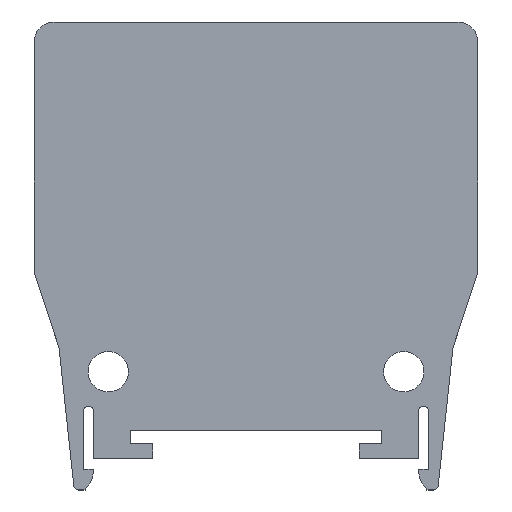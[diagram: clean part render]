
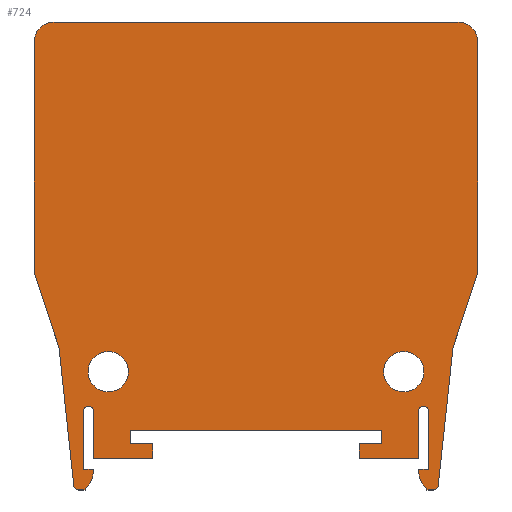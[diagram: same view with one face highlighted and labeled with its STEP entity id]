
A CAD part, top view. The second image highlights one B-rep face of the part: STEP entity #724.
In plain terms, the highlighted planar face has unit normal (0, 0, 1).
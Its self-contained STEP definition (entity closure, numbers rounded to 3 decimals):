
#17=FACE_BOUND('',#123,.T.);
#18=FACE_BOUND('',#124,.T.);
#20=CIRCLE('',#751,0.5);
#22=CIRCLE('',#754,0.5);
#23=CIRCLE('',#757,2.);
#32=CIRCLE('',#769,2.);
#33=CIRCLE('',#771,2.05);
#34=CIRCLE('',#773,2.05);
#35=CIRCLE('',#781,0.5);
#36=CIRCLE('',#784,3.);
#37=CIRCLE('',#799,3.);
#38=CIRCLE('',#802,0.5);
#84=FACE_OUTER_BOUND('',#122,.T.);
#122=EDGE_LOOP('',(#629,#630,#631,#632,#633,#634,#635,#636,#637,#638,#639,
#640,#641,#642,#643,#644,#645,#646,#647,#648,#649,#650,#651,#652,#653,#654,
#655,#656,#657,#658,#659,#660));
#123=EDGE_LOOP('',(#661));
#124=EDGE_LOOP('',(#662));
#128=LINE('',#1009,#210);
#134=LINE('',#1030,#216);
#139=LINE('',#1045,#221);
#165=LINE('',#1116,#247);
#167=LINE('',#1120,#249);
#169=LINE('',#1123,#251);
#170=LINE('',#1126,#252);
#172=LINE('',#1130,#254);
#174=LINE('',#1134,#256);
#177=LINE('',#1142,#259);
#180=LINE('',#1149,#262);
#181=LINE('',#1152,#263);
#183=LINE('',#1156,#265);
#185=LINE('',#1160,#267);
#187=LINE('',#1164,#269);
#189=LINE('',#1168,#271);
#191=LINE('',#1172,#273);
#193=LINE('',#1176,#275);
#195=LINE('',#1180,#277);
#197=LINE('',#1184,#279);
#199=LINE('',#1187,#281);
#200=LINE('',#1190,#282);
#202=LINE('',#1194,#284);
#205=LINE('',#1202,#287);
#210=VECTOR('',#811,10.);
#216=VECTOR('',#831,10.);
#221=VECTOR('',#844,10.);
#247=VECTOR('',#900,10.);
#249=VECTOR('',#904,10.);
#251=VECTOR('',#908,10.);
#252=VECTOR('',#911,10.);
#254=VECTOR('',#915,10.);
#256=VECTOR('',#919,10.);
#259=VECTOR('',#928,10.);
#262=VECTOR('',#937,10.);
#263=VECTOR('',#940,10.);
#265=VECTOR('',#944,10.);
#267=VECTOR('',#948,10.);
#269=VECTOR('',#952,10.);
#271=VECTOR('',#956,10.);
#273=VECTOR('',#960,10.);
#275=VECTOR('',#964,10.);
#277=VECTOR('',#968,10.);
#279=VECTOR('',#972,10.);
#281=VECTOR('',#976,10.);
#282=VECTOR('',#979,10.);
#284=VECTOR('',#983,10.);
#287=VECTOR('',#992,10.);
#290=VERTEX_POINT('',#1003);
#292=VERTEX_POINT('',#1007);
#294=VERTEX_POINT('',#1013);
#297=VERTEX_POINT('',#1020);
#298=VERTEX_POINT('',#1022);
#300=VERTEX_POINT('',#1028);
#301=VERTEX_POINT('',#1032);
#302=VERTEX_POINT('',#1033);
#306=VERTEX_POINT('',#1043);
#332=VERTEX_POINT('',#1101);
#333=VERTEX_POINT('',#1105);
#334=VERTEX_POINT('',#1109);
#335=VERTEX_POINT('',#1113);
#336=VERTEX_POINT('',#1115);
#337=VERTEX_POINT('',#1119);
#338=VERTEX_POINT('',#1125);
#339=VERTEX_POINT('',#1129);
#340=VERTEX_POINT('',#1133);
#341=VERTEX_POINT('',#1137);
#342=VERTEX_POINT('',#1141);
#343=VERTEX_POINT('',#1145);
#344=VERTEX_POINT('',#1151);
#345=VERTEX_POINT('',#1155);
#346=VERTEX_POINT('',#1159);
#347=VERTEX_POINT('',#1163);
#348=VERTEX_POINT('',#1167);
#349=VERTEX_POINT('',#1171);
#350=VERTEX_POINT('',#1175);
#351=VERTEX_POINT('',#1179);
#352=VERTEX_POINT('',#1183);
#353=VERTEX_POINT('',#1189);
#354=VERTEX_POINT('',#1193);
#355=VERTEX_POINT('',#1197);
#356=VERTEX_POINT('',#1201);
#360=EDGE_CURVE('',#290,#292,#128,.T.);
#362=EDGE_CURVE('',#290,#294,#20,.T.);
#366=EDGE_CURVE('',#297,#298,#22,.T.);
#370=EDGE_CURVE('',#297,#300,#134,.T.);
#371=EDGE_CURVE('',#301,#302,#23,.T.);
#377=EDGE_CURVE('',#301,#306,#139,.T.);
#406=EDGE_CURVE('',#332,#306,#32,.T.);
#408=EDGE_CURVE('',#333,#333,#33,.T.);
#410=EDGE_CURVE('',#334,#334,#34,.T.);
#413=EDGE_CURVE('',#336,#335,#165,.T.);
#415=EDGE_CURVE('',#337,#336,#167,.T.);
#417=EDGE_CURVE('',#332,#337,#169,.T.);
#418=EDGE_CURVE('',#338,#302,#170,.T.);
#420=EDGE_CURVE('',#339,#338,#172,.T.);
#422=EDGE_CURVE('',#340,#339,#174,.T.);
#424=EDGE_CURVE('',#341,#340,#35,.T.);
#426=EDGE_CURVE('',#342,#341,#177,.T.);
#428=EDGE_CURVE('',#343,#342,#36,.T.);
#430=EDGE_CURVE('',#292,#343,#180,.T.);
#431=EDGE_CURVE('',#344,#294,#181,.T.);
#433=EDGE_CURVE('',#345,#344,#183,.T.);
#435=EDGE_CURVE('',#346,#345,#185,.T.);
#437=EDGE_CURVE('',#347,#346,#187,.T.);
#439=EDGE_CURVE('',#348,#347,#189,.T.);
#441=EDGE_CURVE('',#349,#348,#191,.T.);
#443=EDGE_CURVE('',#350,#349,#193,.T.);
#445=EDGE_CURVE('',#351,#350,#195,.T.);
#447=EDGE_CURVE('',#352,#351,#197,.T.);
#449=EDGE_CURVE('',#300,#352,#199,.T.);
#450=EDGE_CURVE('',#353,#298,#200,.T.);
#452=EDGE_CURVE('',#354,#353,#202,.T.);
#454=EDGE_CURVE('',#355,#354,#37,.T.);
#456=EDGE_CURVE('',#356,#355,#205,.T.);
#458=EDGE_CURVE('',#335,#356,#38,.T.);
#629=ORIENTED_EDGE('',*,*,#371,.F.);
#630=ORIENTED_EDGE('',*,*,#377,.T.);
#631=ORIENTED_EDGE('',*,*,#406,.F.);
#632=ORIENTED_EDGE('',*,*,#417,.T.);
#633=ORIENTED_EDGE('',*,*,#415,.T.);
#634=ORIENTED_EDGE('',*,*,#413,.T.);
#635=ORIENTED_EDGE('',*,*,#458,.T.);
#636=ORIENTED_EDGE('',*,*,#456,.T.);
#637=ORIENTED_EDGE('',*,*,#454,.T.);
#638=ORIENTED_EDGE('',*,*,#452,.T.);
#639=ORIENTED_EDGE('',*,*,#450,.T.);
#640=ORIENTED_EDGE('',*,*,#366,.F.);
#641=ORIENTED_EDGE('',*,*,#370,.T.);
#642=ORIENTED_EDGE('',*,*,#449,.T.);
#643=ORIENTED_EDGE('',*,*,#447,.T.);
#644=ORIENTED_EDGE('',*,*,#445,.T.);
#645=ORIENTED_EDGE('',*,*,#443,.T.);
#646=ORIENTED_EDGE('',*,*,#441,.T.);
#647=ORIENTED_EDGE('',*,*,#439,.T.);
#648=ORIENTED_EDGE('',*,*,#437,.T.);
#649=ORIENTED_EDGE('',*,*,#435,.T.);
#650=ORIENTED_EDGE('',*,*,#433,.T.);
#651=ORIENTED_EDGE('',*,*,#431,.T.);
#652=ORIENTED_EDGE('',*,*,#362,.F.);
#653=ORIENTED_EDGE('',*,*,#360,.T.);
#654=ORIENTED_EDGE('',*,*,#430,.T.);
#655=ORIENTED_EDGE('',*,*,#428,.T.);
#656=ORIENTED_EDGE('',*,*,#426,.T.);
#657=ORIENTED_EDGE('',*,*,#424,.T.);
#658=ORIENTED_EDGE('',*,*,#422,.T.);
#659=ORIENTED_EDGE('',*,*,#420,.T.);
#660=ORIENTED_EDGE('',*,*,#418,.T.);
#661=ORIENTED_EDGE('',*,*,#410,.T.);
#662=ORIENTED_EDGE('',*,*,#408,.T.);
#688=PLANE('',#803);
#724=ADVANCED_FACE('',(#84,#17,#18),#688,.T.);
#751=AXIS2_PLACEMENT_3D('',#1014,#816,#817);
#754=AXIS2_PLACEMENT_3D('',#1023,#824,#825);
#757=AXIS2_PLACEMENT_3D('',#1034,#834,#835);
#769=AXIS2_PLACEMENT_3D('',#1102,#884,#885);
#771=AXIS2_PLACEMENT_3D('',#1106,#889,#890);
#773=AXIS2_PLACEMENT_3D('',#1110,#894,#895);
#781=AXIS2_PLACEMENT_3D('',#1138,#923,#924);
#784=AXIS2_PLACEMENT_3D('',#1146,#932,#933);
#799=AXIS2_PLACEMENT_3D('',#1198,#987,#988);
#802=AXIS2_PLACEMENT_3D('',#1205,#996,#997);
#803=AXIS2_PLACEMENT_3D('',#1206,#998,#999);
#811=DIRECTION('',(0.,-1.,0.));
#816=DIRECTION('center_axis',(0.,0.,1.));
#817=DIRECTION('ref_axis',(0.707,0.707,0.));
#824=DIRECTION('center_axis',(0.,0.,1.));
#825=DIRECTION('ref_axis',(0.707,0.707,0.));
#831=DIRECTION('',(0.,-1.,0.));
#834=DIRECTION('center_axis',(0.,0.,-1.));
#835=DIRECTION('ref_axis',(0.707,0.707,0.));
#844=DIRECTION('',(-1.,0.,0.));
#884=DIRECTION('center_axis',(0.,0.,-1.));
#885=DIRECTION('ref_axis',(-0.707,0.707,0.));
#889=DIRECTION('center_axis',(0.,0.,-1.));
#890=DIRECTION('ref_axis',(-1.,0.,0.));
#894=DIRECTION('center_axis',(0.,0.,-1.));
#895=DIRECTION('ref_axis',(-1.,0.,0.));
#900=DIRECTION('',(0.106,-0.994,0.));
#904=DIRECTION('',(0.316,-0.949,0.));
#908=DIRECTION('',(0.,-1.,0.));
#911=DIRECTION('',(0.,1.,0.));
#915=DIRECTION('',(0.316,0.949,0.));
#919=DIRECTION('',(0.106,0.994,0.));
#923=DIRECTION('center_axis',(0.,0.,1.));
#924=DIRECTION('ref_axis',(0.,-1.,0.));
#928=DIRECTION('',(1.,0.,0.));
#932=DIRECTION('center_axis',(0.,0.,1.));
#933=DIRECTION('ref_axis',(-1.,0.,0.));
#937=DIRECTION('',(-1.,0.,0.));
#940=DIRECTION('',(0.,1.,0.));
#944=DIRECTION('',(1.,0.,0.));
#948=DIRECTION('',(0.,-1.,0.));
#952=DIRECTION('',(-1.,0.,0.));
#956=DIRECTION('',(0.,-1.,0.));
#960=DIRECTION('',(1.,0.,0.));
#964=DIRECTION('',(0.,1.,0.));
#968=DIRECTION('',(-1.,0.,0.));
#972=DIRECTION('',(0.,1.,0.));
#976=DIRECTION('',(1.,0.,0.));
#979=DIRECTION('',(0.,1.,0.));
#983=DIRECTION('',(-1.,0.,0.));
#987=DIRECTION('center_axis',(0.,0.,1.));
#988=DIRECTION('ref_axis',(0.714,-0.7,0.));
#992=DIRECTION('',(1.,0.,0.));
#996=DIRECTION('center_axis',(0.,0.,1.));
#997=DIRECTION('ref_axis',(-0.994,-0.106,0.));
#998=DIRECTION('center_axis',(0.,0.,1.));
#999=DIRECTION('ref_axis',(1.,0.,0.));
#1003=CARTESIAN_POINT('',(17.5,-4.,5.));
#1007=CARTESIAN_POINT('',(17.5,-9.9,5.));
#1009=CARTESIAN_POINT('',(17.5,-3.5,5.));
#1013=CARTESIAN_POINT('',(16.5,-4.,5.));
#1014=CARTESIAN_POINT('Origin',(17.,-4.,5.));
#1020=CARTESIAN_POINT('',(-16.5,-4.,5.));
#1022=CARTESIAN_POINT('',(-17.5,-4.,5.));
#1023=CARTESIAN_POINT('Origin',(-17.,-4.,5.));
#1028=CARTESIAN_POINT('',(-16.5,-8.8,5.));
#1030=CARTESIAN_POINT('',(-16.5,-3.5,5.));
#1032=CARTESIAN_POINT('',(20.5,35.5,5.));
#1033=CARTESIAN_POINT('',(22.5,33.5,5.));
#1034=CARTESIAN_POINT('Origin',(20.5,33.5,5.));
#1043=CARTESIAN_POINT('',(-20.5,35.5,5.));
#1045=CARTESIAN_POINT('',(22.5,35.5,5.));
#1101=CARTESIAN_POINT('',(-22.5,33.5,5.));
#1102=CARTESIAN_POINT('Origin',(-20.5,33.5,5.));
#1105=CARTESIAN_POINT('',(17.05,0.,5.));
#1106=CARTESIAN_POINT('Origin',(15.,0.,5.));
#1109=CARTESIAN_POINT('',(-12.95,0.,5.));
#1110=CARTESIAN_POINT('Origin',(-15.,0.,5.));
#1113=CARTESIAN_POINT('',(-18.497,-11.553,5.));
#1115=CARTESIAN_POINT('',(-20.,2.5,5.));
#1116=CARTESIAN_POINT('',(-20.,2.5,5.));
#1119=CARTESIAN_POINT('',(-22.5,10.,5.));
#1120=CARTESIAN_POINT('',(-22.5,10.,5.));
#1123=CARTESIAN_POINT('',(-22.5,35.5,5.));
#1125=CARTESIAN_POINT('',(22.5,10.,5.));
#1126=CARTESIAN_POINT('',(22.5,10.,5.));
#1129=CARTESIAN_POINT('',(20.,2.5,5.));
#1130=CARTESIAN_POINT('',(20.,2.5,5.));
#1133=CARTESIAN_POINT('',(18.497,-11.553,5.));
#1134=CARTESIAN_POINT('',(18.497,-11.553,5.));
#1137=CARTESIAN_POINT('',(18.,-12.,5.));
#1138=CARTESIAN_POINT('Origin',(18.,-11.5,5.));
#1141=CARTESIAN_POINT('',(17.358,-12.,5.));
#1142=CARTESIAN_POINT('',(17.358,-12.,5.));
#1145=CARTESIAN_POINT('',(16.5,-9.9,5.));
#1146=CARTESIAN_POINT('Origin',(19.5,-9.9,5.));
#1149=CARTESIAN_POINT('',(17.5,-9.9,5.));
#1151=CARTESIAN_POINT('',(16.5,-8.8,5.));
#1152=CARTESIAN_POINT('',(16.5,-8.8,5.));
#1155=CARTESIAN_POINT('',(10.5,-8.8,5.));
#1156=CARTESIAN_POINT('',(10.5,-8.8,5.));
#1159=CARTESIAN_POINT('',(10.5,-7.3,5.));
#1160=CARTESIAN_POINT('',(10.5,-7.3,5.));
#1163=CARTESIAN_POINT('',(12.75,-7.3,5.));
#1164=CARTESIAN_POINT('',(12.75,-7.3,5.));
#1167=CARTESIAN_POINT('',(12.75,-6.,5.));
#1168=CARTESIAN_POINT('',(12.75,-6.,5.));
#1171=CARTESIAN_POINT('',(-12.75,-6.,5.));
#1172=CARTESIAN_POINT('',(-12.75,-6.,5.));
#1175=CARTESIAN_POINT('',(-12.75,-7.3,5.));
#1176=CARTESIAN_POINT('',(-12.75,-7.3,5.));
#1179=CARTESIAN_POINT('',(-10.5,-7.3,5.));
#1180=CARTESIAN_POINT('',(-10.5,-7.3,5.));
#1183=CARTESIAN_POINT('',(-10.5,-8.8,5.));
#1184=CARTESIAN_POINT('',(-10.5,-8.8,5.));
#1187=CARTESIAN_POINT('',(-16.5,-8.8,5.));
#1189=CARTESIAN_POINT('',(-17.5,-9.9,5.));
#1190=CARTESIAN_POINT('',(-17.5,-9.9,5.));
#1193=CARTESIAN_POINT('',(-16.5,-9.9,5.));
#1194=CARTESIAN_POINT('',(-16.5,-9.9,5.));
#1197=CARTESIAN_POINT('',(-17.358,-12.,5.));
#1198=CARTESIAN_POINT('Origin',(-19.5,-9.9,5.));
#1201=CARTESIAN_POINT('',(-18.,-12.,5.));
#1202=CARTESIAN_POINT('',(-18.,-12.,5.));
#1205=CARTESIAN_POINT('Origin',(-18.,-11.5,5.));
#1206=CARTESIAN_POINT('Origin',(0.,11.75,5.));
